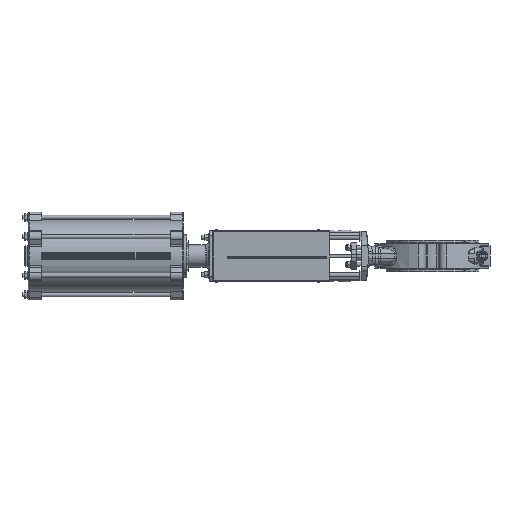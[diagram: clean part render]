
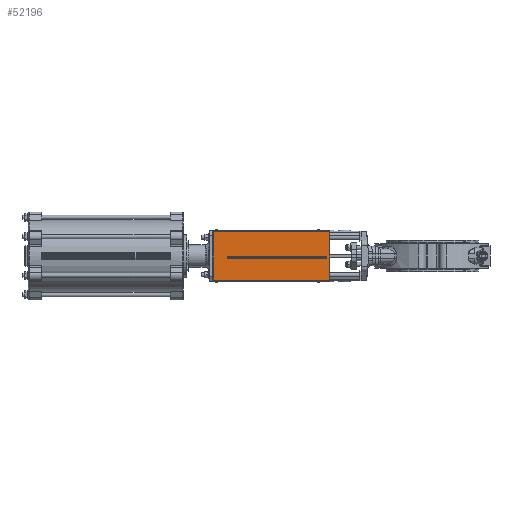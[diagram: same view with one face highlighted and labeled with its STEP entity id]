
A CAD part, left-side view. The second image highlights one B-rep face of the part: STEP entity #52196.
In plain terms, the highlighted planar face has unit normal (-1, 0, 0).
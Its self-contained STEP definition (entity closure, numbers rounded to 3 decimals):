
#1601=FACE_BOUND('',#9398,.T.);
#2516=PLANE('',#57927);
#6065=FACE_OUTER_BOUND('',#9397,.T.);
#9397=EDGE_LOOP('',(#43662,#43663,#43664,#43665));
#9398=EDGE_LOOP('',(#43666,#43667,#43668,#43669));
#12863=CIRCLE('',#57891,3.);
#12865=CIRCLE('',#57895,3.);
#16547=LINE('',#97947,#19076);
#16550=LINE('',#97960,#19079);
#16558=LINE('',#97983,#19087);
#16573=LINE('',#98011,#19102);
#16577=LINE('',#98023,#19106);
#16595=LINE('',#98079,#19124);
#19076=VECTOR('',#71256,1.);
#19079=VECTOR('',#71269,1.);
#19087=VECTOR('',#71291,1.);
#19102=VECTOR('',#71314,1.);
#19106=VECTOR('',#71326,1.);
#19124=VECTOR('',#71410,1.);
#23398=VERTEX_POINT('',#97940);
#23401=VERTEX_POINT('',#97945);
#23406=VERTEX_POINT('',#97958);
#23414=VERTEX_POINT('',#97981);
#23422=VERTEX_POINT('',#98008);
#23423=VERTEX_POINT('',#98010);
#23425=VERTEX_POINT('',#98016);
#23427=VERTEX_POINT('',#98022);
#30250=EDGE_CURVE('',#23401,#23398,#16547,.T.);
#30256=EDGE_CURVE('',#23401,#23406,#16550,.T.);
#30269=EDGE_CURVE('',#23406,#23414,#16558,.T.);
#30284=EDGE_CURVE('',#23423,#23422,#16573,.T.);
#30287=EDGE_CURVE('',#23425,#23423,#12863,.T.);
#30290=EDGE_CURVE('',#23427,#23425,#16577,.T.);
#30293=EDGE_CURVE('',#23422,#23427,#12865,.T.);
#30324=EDGE_CURVE('',#23398,#23414,#16595,.T.);
#43662=ORIENTED_EDGE('',*,*,#30324,.F.);
#43663=ORIENTED_EDGE('',*,*,#30250,.F.);
#43664=ORIENTED_EDGE('',*,*,#30256,.T.);
#43665=ORIENTED_EDGE('',*,*,#30269,.T.);
#43666=ORIENTED_EDGE('',*,*,#30284,.T.);
#43667=ORIENTED_EDGE('',*,*,#30293,.T.);
#43668=ORIENTED_EDGE('',*,*,#30290,.T.);
#43669=ORIENTED_EDGE('',*,*,#30287,.T.);
#52196=ADVANCED_FACE('',(#6065,#1601),#2516,.F.);
#57891=AXIS2_PLACEMENT_3D('',#98017,#71320,#71321);
#57895=AXIS2_PLACEMENT_3D('',#98027,#71332,#71333);
#57927=AXIS2_PLACEMENT_3D('',#98082,#71414,#71415);
#71256=DIRECTION('',(0.,0.,1.));
#71269=DIRECTION('',(0.,-1.,0.));
#71291=DIRECTION('',(0.,0.,1.));
#71314=DIRECTION('',(0.,1.,0.));
#71320=DIRECTION('center_axis',(1.,0.,0.));
#71321=DIRECTION('ref_axis',(0.,-1.,0.));
#71326=DIRECTION('',(0.,-1.,0.));
#71332=DIRECTION('center_axis',(1.,0.,0.));
#71333=DIRECTION('ref_axis',(0.,-1.,0.));
#71410=DIRECTION('',(0.,-1.,0.));
#71414=DIRECTION('center_axis',(1.,0.,0.));
#71415=DIRECTION('ref_axis',(0.,0.,
-1.));
#97940=CARTESIAN_POINT('',(-126.,639.,71.5));
#97945=CARTESIAN_POINT('',(-126.,639.,-71.5));
#97947=CARTESIAN_POINT('',(-126.,639.,-71.5));
#97958=CARTESIAN_POINT('',(-126.,299.,-71.5));
#97960=CARTESIAN_POINT('',(-126.,639.,-71.5));
#97981=CARTESIAN_POINT('',(-126.,299.,71.5));
#97983=CARTESIAN_POINT('',(-126.,299.,-71.5));
#98008=CARTESIAN_POINT('',(-126.,594.,-8.));
#98010=CARTESIAN_POINT('',(-126.,310.,-8.));
#98011=CARTESIAN_POINT('',(-126.,310.,-8.));
#98016=CARTESIAN_POINT('',(-126.,310.,-2.));
#98017=CARTESIAN_POINT('Origin',(-126.,310.,-5.));
#98022=CARTESIAN_POINT('',(-126.,594.,-2.));
#98023=CARTESIAN_POINT('',(-126.,594.,-2.));
#98027=CARTESIAN_POINT('Origin',(-126.,594.,-5.));
#98079=CARTESIAN_POINT('',(-126.,639.,71.5));
#98082=CARTESIAN_POINT('Origin',(-126.,639.,-71.5));
